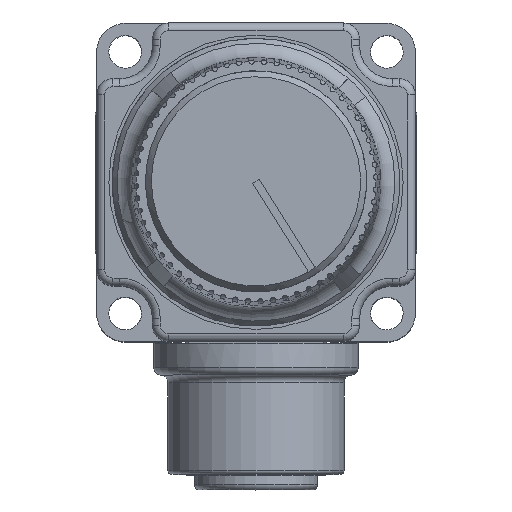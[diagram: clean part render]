
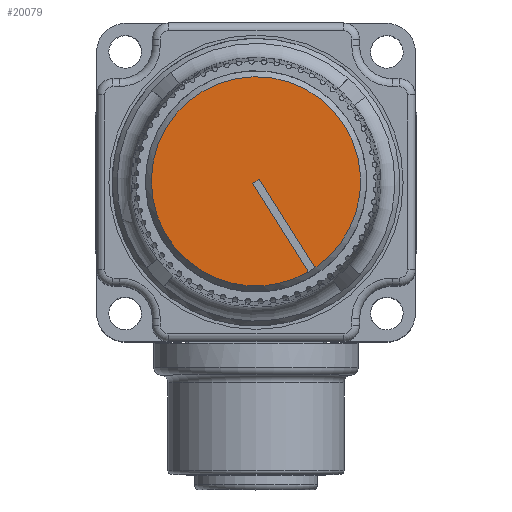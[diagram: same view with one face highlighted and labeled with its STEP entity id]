
A CAD part, top view. The second image highlights one B-rep face of the part: STEP entity #20079.
In plain terms, the highlighted planar face has unit normal (0, 0, 1).
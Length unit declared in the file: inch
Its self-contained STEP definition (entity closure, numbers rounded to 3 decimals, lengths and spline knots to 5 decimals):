
#2138=LINE('',#38922,#3542);
#2143=LINE('',#38941,#3547);
#2146=LINE('',#38946,#3550);
#3542=VECTOR('',#26777,0.3937);
#3547=VECTOR('',#26788,0.3937);
#3550=VECTOR('',#26793,0.3937);
#4866=FACE_OUTER_BOUND('',#6064,.T.);
#6064=EDGE_LOOP('',(#16285,#16286,#16287,#16288,#16289));
#6950=CIRCLE('',#21984,0.4);
#6951=CIRCLE('',#21985,0.4);
#8667=VERTEX_POINT('',#38920);
#8668=VERTEX_POINT('',#38921);
#8671=VERTEX_POINT('',#38934);
#8673=VERTEX_POINT('',#38940);
#8675=VERTEX_POINT('',#38950);
#11251=EDGE_CURVE('',#8667,#8668,#2138,.T.);
#11258=EDGE_CURVE('',#8673,#8671,#2143,.T.);
#11261=EDGE_CURVE('',#8668,#8673,#2146,.T.);
#11263=EDGE_CURVE('',#8671,#8675,#6950,.T.);
#11264=EDGE_CURVE('',#8675,#8667,#6951,.T.);
#16285=ORIENTED_EDGE('',*,*,#11258,.T.);
#16286=ORIENTED_EDGE('',*,*,#11263,.T.);
#16287=ORIENTED_EDGE('',*,*,#11264,.T.);
#16288=ORIENTED_EDGE('',*,*,#11251,.T.);
#16289=ORIENTED_EDGE('',*,*,#11261,.T.);
#18014=PLANE('',#21988);
#20079=ADVANCED_FACE('',(#4866),#18014,.T.);
#21984=AXIS2_PLACEMENT_3D('',#38951,#26799,#26800);
#21985=AXIS2_PLACEMENT_3D('',#38952,#26801,#26802);
#21988=AXIS2_PLACEMENT_3D('',#38958,#26808,#26809);
#26777=DIRECTION('',(-0.532,0.847,0.));
#26788=DIRECTION('',(0.532,-0.847,0.));
#26793=DIRECTION('',(0.847,0.532,0.));
#26799=DIRECTION('center_axis',(0.,0.,1.));
#26800=DIRECTION('ref_axis',(0.847,0.532,0.));
#26801=DIRECTION('center_axis',(0.,0.,1.));
#26802=DIRECTION('ref_axis',(0.847,0.532,0.));
#26808=DIRECTION('center_axis',(0.,0.,1.));
#26809=DIRECTION('ref_axis',(1.,0.,0.));
#38920=CARTESIAN_POINT('',(0.07752,-0.40952,1.8705));
#38921=CARTESIAN_POINT('',(-0.13496,-0.07095,1.8705));
#38922=CARTESIAN_POINT('',(0.07752,-0.40952,1.8705));
#38934=CARTESIAN_POINT('',(0.10293,-0.39357,1.8705));
#38940=CARTESIAN_POINT('',(-0.10955,-0.05501,1.8705));
#38941=CARTESIAN_POINT('',(-0.10955,-0.05501,1.8705));
#38946=CARTESIAN_POINT('',(-0.13496,-0.07095,1.8705));
#38950=CARTESIAN_POINT('',(-0.27442,-0.43291,1.8705));
#38951=CARTESIAN_POINT('Origin',(-0.12226,-0.06298,
1.8705));
#38952=CARTESIAN_POINT('Origin',(-0.12226,-0.06298,
1.8705));
#38958=CARTESIAN_POINT('Origin',(-0.47103,-0.27882,
1.8705));
